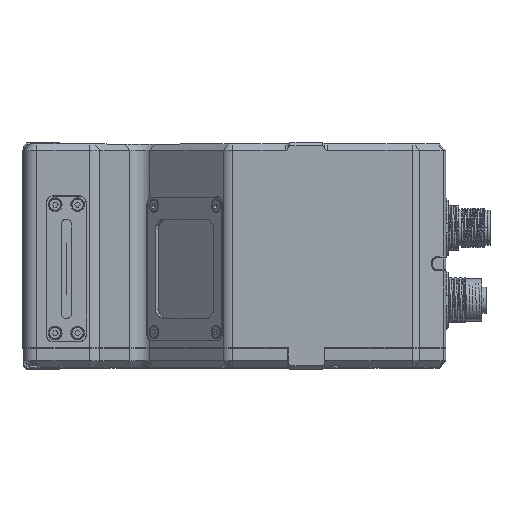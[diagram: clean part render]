
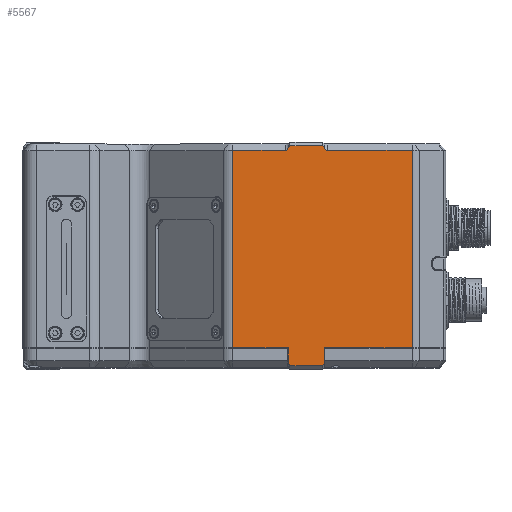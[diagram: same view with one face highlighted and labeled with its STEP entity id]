
A CAD part, top view. The second image highlights one B-rep face of the part: STEP entity #5567.
In plain terms, the highlighted planar face has unit normal (0, 0, 1).
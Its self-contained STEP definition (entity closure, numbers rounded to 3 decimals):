
#552=DIRECTION('',(1.,0.,0.));
#553=VECTOR('',#552,15.991);
#554=CARTESIAN_POINT('',(-0.64,32.,62.25));
#555=LINE('',#554,#553);
#556=DIRECTION('',(-0.577,-0.816,0.));
#557=VECTOR('',#556,0.866);
#558=CARTESIAN_POINT('',(16.75,33.5,62.25));
#559=LINE('',#558,#557);
#560=DIRECTION('',(1.,0.,0.));
#561=VECTOR('',#560,10.);
#562=CARTESIAN_POINT('',(16.75,33.5,62.25));
#563=LINE('',#562,#561);
#564=DIRECTION('',(-0.577,0.816,0.));
#565=VECTOR('',#564,0.866);
#566=CARTESIAN_POINT('',(27.25,32.793,62.25));
#567=LINE('',#566,#565);
#568=DIRECTION('',(1.,0.,0.));
#569=VECTOR('',#568,25.859);
#570=CARTESIAN_POINT('',(28.148,32.,62.25));
#571=LINE('',#570,#569);
#572=DIRECTION('',(0.,1.,0.));
#573=VECTOR('',#572,60.);
#574=CARTESIAN_POINT('',(54.007,-28.,62.25));
#575=LINE('',#574,#573);
#576=DIRECTION('',(1.,0.,0.));
#577=VECTOR('',#576,26.757);
#578=CARTESIAN_POINT('',(27.25,-28.,62.25));
#579=LINE('',#578,#577);
#580=DIRECTION('',(0.,-1.,0.));
#581=VECTOR('',#580,4.793);
#582=CARTESIAN_POINT('',(27.25,-28.,62.25));
#583=LINE('',#582,#581);
#584=DIRECTION('',(0.577,0.816,0.));
#585=VECTOR('',#584,0.866);
#586=CARTESIAN_POINT('',(26.75,-33.5,62.25));
#587=LINE('',#586,#585);
#588=DIRECTION('',(-1.,0.,0.));
#589=VECTOR('',#588,10.);
#590=CARTESIAN_POINT('',(26.75,-33.5,62.25));
#591=LINE('',#590,#589);
#592=DIRECTION('',(0.577,-0.816,0.));
#593=VECTOR('',#592,0.866);
#594=CARTESIAN_POINT('',(16.25,-32.793,62.25));
#595=LINE('',#594,#593);
#596=DIRECTION('',(1.,0.,0.));
#597=VECTOR('',#596,16.89);
#598=CARTESIAN_POINT('',(-0.64,-28.,62.25));
#599=LINE('',#598,#597);
#600=DIRECTION('',(0.,-1.,0.));
#601=VECTOR('',#600,60.);
#602=CARTESIAN_POINT('',(-0.64,32.,62.25));
#603=LINE('',#602,#601);
#621=CARTESIAN_POINT('',(16.25,32.793,62.25));
#622=CARTESIAN_POINT('',(16.21,32.678,62.25));
#623=CARTESIAN_POINT('',(16.112,32.473,62.25));
#624=CARTESIAN_POINT('',(15.919,32.23,62.25));
#625=CARTESIAN_POINT('',(15.717,32.086,62.25));
#626=CARTESIAN_POINT('',(15.524,32.015,62.25));
#627=CARTESIAN_POINT('',(15.413,32.,62.25));
#628=CARTESIAN_POINT('',(15.352,32.,62.25));
#654=CARTESIAN_POINT('',(28.148,32.,62.25));
#655=CARTESIAN_POINT('',(28.087,32.,62.25));
#656=CARTESIAN_POINT('',(27.976,32.015,62.25));
#657=CARTESIAN_POINT('',(27.783,32.086,62.25));
#658=CARTESIAN_POINT('',(27.581,32.23,62.25));
#659=CARTESIAN_POINT('',(27.388,32.473,62.25));
#660=CARTESIAN_POINT('',(27.29,32.678,62.25));
#661=CARTESIAN_POINT('',(27.25,32.793,62.25));
#3006=DIRECTION('',(0.,-1.,0.));
#3007=VECTOR('',#3006,4.793);
#3008=CARTESIAN_POINT('',(16.25,-28.,62.25));
#3009=LINE('',#3008,#3007);
#3947=CARTESIAN_POINT('',(-0.64,-28.,62.25));
#3949=VERTEX_POINT('',#3947);
#3952=CARTESIAN_POINT('',(54.007,-28.,62.25));
#3954=VERTEX_POINT('',#3952);
#3971=CARTESIAN_POINT('',(16.25,-28.,62.25));
#3972=VERTEX_POINT('',#3971);
#3973=CARTESIAN_POINT('',(27.25,-28.,62.25));
#3974=VERTEX_POINT('',#3973);
#4683=CARTESIAN_POINT('',(54.007,32.,62.25));
#4684=VERTEX_POINT('',#4683);
#4690=CARTESIAN_POINT('',(-0.64,32.,62.25));
#4692=VERTEX_POINT('',#4690);
#4769=CARTESIAN_POINT('',(26.75,33.5,62.25));
#4770=VERTEX_POINT('',#4769);
#4771=CARTESIAN_POINT('',(16.75,33.5,62.25));
#4772=VERTEX_POINT('',#4771);
#4785=CARTESIAN_POINT('',(28.148,32.,62.25));
#4787=VERTEX_POINT('',#4785);
#4789=CARTESIAN_POINT('',(27.25,32.793,62.25));
#4791=VERTEX_POINT('',#4789);
#4794=CARTESIAN_POINT('',(15.352,32.,62.25));
#4796=VERTEX_POINT('',#4794);
#4798=CARTESIAN_POINT('',(16.25,32.793,62.25));
#4800=VERTEX_POINT('',#4798);
#4809=CARTESIAN_POINT('',(26.75,-33.5,62.25));
#4810=CARTESIAN_POINT('',(27.25,-32.793,62.25));
#4811=VERTEX_POINT('',#4809);
#4812=VERTEX_POINT('',#4810);
#4829=CARTESIAN_POINT('',(16.25,-32.793,62.25));
#4830=CARTESIAN_POINT('',(16.75,-33.5,62.25));
#4831=VERTEX_POINT('',#4829);
#4832=VERTEX_POINT('',#4830);
#5530=CARTESIAN_POINT('',(-64.25,-34.,62.25));
#5531=DIRECTION('',(0.,0.,1.));
#5532=DIRECTION('',(1.,0.,0.));
#5533=AXIS2_PLACEMENT_3D('',#5530,#5531,#5532);
#5534=PLANE('',#5533);
#5536=ORIENTED_EDGE('',*,*,#5535,.T.);
#5538=ORIENTED_EDGE('',*,*,#5537,.F.);
#5540=ORIENTED_EDGE('',*,*,#5539,.F.);
#5542=ORIENTED_EDGE('',*,*,#5541,.T.);
#5544=ORIENTED_EDGE('',*,*,#5543,.F.);
#5546=ORIENTED_EDGE('',*,*,#5545,.F.);
#5548=ORIENTED_EDGE('',*,*,#5547,.T.);
#5550=ORIENTED_EDGE('',*,*,#5549,.F.);
#5552=ORIENTED_EDGE('',*,*,#5551,.F.);
#5553=ORIENTED_EDGE('',*,*,#5502,.T.);
#5554=ORIENTED_EDGE('',*,*,#5521,.F.);
#5556=ORIENTED_EDGE('',*,*,#5555,.T.);
#5558=ORIENTED_EDGE('',*,*,#5557,.F.);
#5560=ORIENTED_EDGE('',*,*,#5559,.F.);
#5562=ORIENTED_EDGE('',*,*,#5561,.F.);
#5564=ORIENTED_EDGE('',*,*,#5563,.F.);
#5565=EDGE_LOOP('',(#5536,#5538,#5540,#5542,#5544,#5546,#5548,#5550,#5552,#5553,
#5554,#5556,#5558,#5560,#5562,#5564));
#5566=FACE_OUTER_BOUND('',#5565,.F.);
#5567=ADVANCED_FACE('',(#5566),#5534,.T.);
#629=B_SPLINE_CURVE_WITH_KNOTS('',3,(#621,#622,#623,#624,#625,#626,#627,#628),
.UNSPECIFIED.,.F.,.F.,(4,1,1,1,1,4),(0.,0.25,0.5,0.75,0.875,1.),
.UNSPECIFIED.);
#662=B_SPLINE_CURVE_WITH_KNOTS('',3,(#654,#655,#656,#657,#658,#659,#660,#661),
.UNSPECIFIED.,.F.,.F.,(4,1,1,1,1,4),(0.,0.125,0.25,0.5,0.75,1.),
.UNSPECIFIED.);
#5502=EDGE_CURVE('',#3974,#4812,#583,.T.);
#5521=EDGE_CURVE('',#4811,#4812,#587,.T.);
#5535=EDGE_CURVE('',#4692,#4796,#555,.T.);
#5537=EDGE_CURVE('',#4800,#4796,#629,.T.);
#5539=EDGE_CURVE('',#4772,#4800,#559,.T.);
#5541=EDGE_CURVE('',#4772,#4770,#563,.T.);
#5543=EDGE_CURVE('',#4791,#4770,#567,.T.);
#5545=EDGE_CURVE('',#4787,#4791,#662,.T.);
#5547=EDGE_CURVE('',#4787,#4684,#571,.T.);
#5549=EDGE_CURVE('',#3954,#4684,#575,.T.);
#5551=EDGE_CURVE('',#3974,#3954,#579,.T.);
#5555=EDGE_CURVE('',#4811,#4832,#591,.T.);
#5557=EDGE_CURVE('',#4831,#4832,#595,.T.);
#5559=EDGE_CURVE('',#3972,#4831,#3009,.T.);
#5561=EDGE_CURVE('',#3949,#3972,#599,.T.);
#5563=EDGE_CURVE('',#4692,#3949,#603,.T.);
